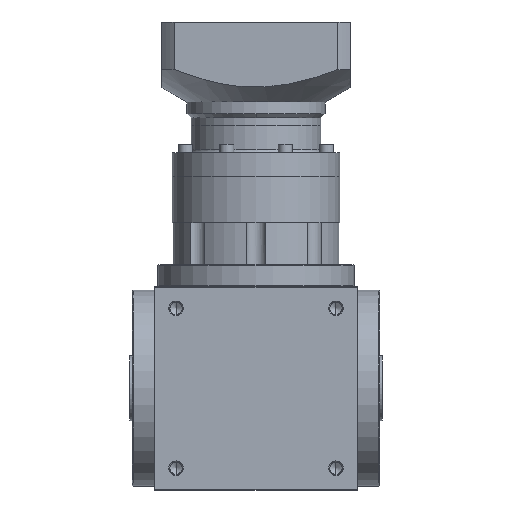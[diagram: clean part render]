
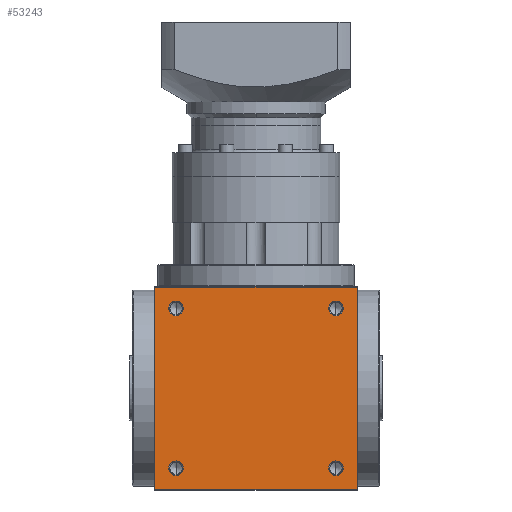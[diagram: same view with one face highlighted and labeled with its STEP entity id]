
A CAD part, front view. The second image highlights one B-rep face of the part: STEP entity #53243.
In plain terms, the highlighted planar face has unit normal (0, -1, 0).
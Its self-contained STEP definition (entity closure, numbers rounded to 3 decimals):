
#1031 = ORIENTED_EDGE ( 'NONE', *, *, #1348, .F. ) ;
#1348 = EDGE_CURVE ( 'NONE', #25370, #9355, #53398, .T. ) ;
#1490 = DIRECTION ( 'NONE',  ( 0., -1., 0. ) ) ;
#2600 = EDGE_CURVE ( 'NONE', #7045, #26670, #42354, .T. ) ;
#3504 = DIRECTION ( 'NONE',  ( 0., -1., 0. ) ) ;
#3703 = ORIENTED_EDGE ( 'NONE', *, *, #26780, .F. ) ;
#3855 = ORIENTED_EDGE ( 'NONE', *, *, #12682, .F. ) ;
#4017 = DIRECTION ( 'NONE',  ( 0., -1., 0. ) ) ;
#4320 = ORIENTED_EDGE ( 'NONE', *, *, #17621, .F. ) ;
#4363 = LINE ( 'NONE', #23595, #37792 ) ;
#4777 = EDGE_CURVE ( 'NONE', #14220, #34663, #33193, .T. ) ;
#7045 = VERTEX_POINT ( 'NONE', #36528 ) ;
#7113 = CIRCLE ( 'NONE', #42030, 5.025 ) ;
#7302 = DIRECTION ( 'NONE',  ( 0., -1., 0. ) ) ;
#8137 = FACE_BOUND ( 'NONE', #45569, .T. ) ;
#8199 = ORIENTED_EDGE ( 'NONE', *, *, #22756, .F. ) ;
#9355 = VERTEX_POINT ( 'NONE', #46163 ) ;
#9998 = DIRECTION ( 'NONE',  ( 0., 1., 0. ) ) ;
#10491 = DIRECTION ( 'NONE',  ( 1., 0., 0. ) ) ;
#10641 = CARTESIAN_POINT ( 'NONE',  ( -55., -70., 9.975 ) ) ;
#11396 = DIRECTION ( 'NONE',  ( 0., -1., 0. ) ) ;
#11636 = CARTESIAN_POINT ( 'NONE',  ( -55., -70., 125. ) ) ;
#11698 = AXIS2_PLACEMENT_3D ( 'NONE', #30046, #4017, #34458 ) ;
#12682 = EDGE_CURVE ( 'NONE', #41719, #25522, #29287, .T. ) ;
#14212 = ORIENTED_EDGE ( 'NONE', *, *, #4777, .F. ) ;
#14220 = VERTEX_POINT ( 'NONE', #29100 ) ;
#14352 = DIRECTION ( 'NONE',  ( 0., 0., -1. ) ) ;
#14362 = DIRECTION ( 'NONE',  ( 0., -1., 0. ) ) ;
#14427 = CARTESIAN_POINT ( 'NONE',  ( -55., -70., 15. ) ) ;
#15977 = DIRECTION ( 'NONE',  ( 0., 0., -1. ) ) ;
#17350 = CARTESIAN_POINT ( 'NONE',  ( 69.5, -70., 0.5 ) ) ;
#17621 = EDGE_CURVE ( 'NONE', #9355, #30589, #4363, .T. ) ;
#18664 = CARTESIAN_POINT ( 'NONE',  ( -69.5, -70., 140. ) ) ;
#18763 = EDGE_CURVE ( 'NONE', #28189, #25370, #27333, .T. ) ;
#19633 = FACE_BOUND ( 'NONE', #51965, .T. ) ;
#20828 = CIRCLE ( 'NONE', #11698, 5.025 ) ;
#20875 = CIRCLE ( 'NONE', #53103, 5.025 ) ;
#21083 = AXIS2_PLACEMENT_3D ( 'NONE', #40445, #9998, #40648 ) ;
#22667 = EDGE_LOOP ( 'NONE', ( #54516, #36931 ) ) ;
#22756 = EDGE_CURVE ( 'NONE', #25522, #41719, #46560, .T. ) ;
#22894 = CARTESIAN_POINT ( 'NONE',  ( 55., -70., 9.975 ) ) ;
#23595 = CARTESIAN_POINT ( 'NONE',  ( -70., -70., 139.5 ) ) ;
#25370 = VERTEX_POINT ( 'NONE', #43642 ) ;
#25522 = VERTEX_POINT ( 'NONE', #10641 ) ;
#26094 = CARTESIAN_POINT ( 'NONE',  ( 69.5, -70., 139.5 ) ) ;
#26407 = LINE ( 'NONE', #33803, #48450 ) ;
#26670 = VERTEX_POINT ( 'NONE', #30953 ) ;
#26780 = EDGE_CURVE ( 'NONE', #34663, #14220, #7113, .T. ) ;
#27308 = PLANE ( 'NONE',  #21083 ) ;
#27333 = LINE ( 'NONE', #54718, #47999 ) ;
#27474 = CARTESIAN_POINT ( 'NONE',  ( 55., -70., 15. ) ) ;
#28098 = AXIS2_PLACEMENT_3D ( 'NONE', #37607, #11396, #42068 ) ;
#28189 = VERTEX_POINT ( 'NONE', #17350 ) ;
#29100 = CARTESIAN_POINT ( 'NONE',  ( 55., -70., 20.025 ) ) ;
#29287 = CIRCLE ( 'NONE', #42156, 5.025 ) ;
#30043 = CARTESIAN_POINT ( 'NONE',  ( -55., -70., 125. ) ) ;
#30046 = CARTESIAN_POINT ( 'NONE',  ( 55., -70., 125. ) ) ;
#30589 = VERTEX_POINT ( 'NONE', #26094 ) ;
#30805 = EDGE_CURVE ( 'NONE', #37432, #43752, #54678, .T. ) ;
#30953 = CARTESIAN_POINT ( 'NONE',  ( -55., -70., 119.975 ) ) ;
#31240 = FACE_BOUND ( 'NONE', #37746, .T. ) ;
#31394 = AXIS2_PLACEMENT_3D ( 'NONE', #33368, #7302, #37819 ) ;
#31446 = CARTESIAN_POINT ( 'NONE',  ( 55., -70., 130.025 ) ) ;
#31898 = DIRECTION ( 'NONE',  ( 0., 0., -1. ) ) ;
#32816 = DIRECTION ( 'NONE',  ( -1., 0., 0. ) ) ;
#33193 = CIRCLE ( 'NONE', #39334, 5.025 ) ;
#33368 = CARTESIAN_POINT ( 'NONE',  ( 55., -70., 125. ) ) ;
#33803 = CARTESIAN_POINT ( 'NONE',  ( 69.5, -70., 140. ) ) ;
#34458 = DIRECTION ( 'NONE',  ( 0., 0., -1. ) ) ;
#34593 = ORIENTED_EDGE ( 'NONE', *, *, #54375, .F. ) ;
#34663 = VERTEX_POINT ( 'NONE', #22894 ) ;
#36043 = ORIENTED_EDGE ( 'NONE', *, *, #18763, .F. ) ;
#36528 = CARTESIAN_POINT ( 'NONE',  ( -55., -70., 130.025 ) ) ;
#36931 = ORIENTED_EDGE ( 'NONE', *, *, #55004, .F. ) ;
#37432 = VERTEX_POINT ( 'NONE', #44220 ) ;
#37607 = CARTESIAN_POINT ( 'NONE',  ( -55., -70., 15. ) ) ;
#37746 = EDGE_LOOP ( 'NONE', ( #34593, #56608 ) ) ;
#37792 = VECTOR ( 'NONE', #10491, 1000. ) ;
#37819 = DIRECTION ( 'NONE',  ( 0., 0., -1. ) ) ;
#38336 = ORIENTED_EDGE ( 'NONE', *, *, #45301, .F. ) ;
#38863 = EDGE_LOOP ( 'NONE', ( #36043, #38336, #4320, #1031 ) ) ;
#39334 = AXIS2_PLACEMENT_3D ( 'NONE', #41712, #41644, #41597 ) ;
#40445 = CARTESIAN_POINT ( 'NONE',  ( -70., -70., 140. ) ) ;
#40643 = DIRECTION ( 'NONE',  ( 0., 0., -1. ) ) ;
#40648 = DIRECTION ( 'NONE',  ( 0., 0., 1. ) ) ;
#41447 = AXIS2_PLACEMENT_3D ( 'NONE', #30043, #3504, #40643 ) ;
#41597 = DIRECTION ( 'NONE',  ( 0., 0., -1. ) ) ;
#41644 = DIRECTION ( 'NONE',  ( 0., -1., 0. ) ) ;
#41712 = CARTESIAN_POINT ( 'NONE',  ( 55., -70., 15. ) ) ;
#41719 = VERTEX_POINT ( 'NONE', #55266 ) ;
#41801 = VECTOR ( 'NONE', #44703, 1000. ) ;
#42030 = AXIS2_PLACEMENT_3D ( 'NONE', #27474, #1490, #31898 ) ;
#42068 = DIRECTION ( 'NONE',  ( 0., 0., -1. ) ) ;
#42156 = AXIS2_PLACEMENT_3D ( 'NONE', #14427, #14362, #14352 ) ;
#42316 = DIRECTION ( 'NONE',  ( 0., -1., 0. ) ) ;
#42354 = CIRCLE ( 'NONE', #41447, 5.025 ) ;
#42708 = DIRECTION ( 'NONE',  ( 0., 0., -1. ) ) ;
#43642 = CARTESIAN_POINT ( 'NONE',  ( -69.5, -70., 0.5 ) ) ;
#43752 = VERTEX_POINT ( 'NONE', #31446 ) ;
#44220 = CARTESIAN_POINT ( 'NONE',  ( 55., -70., 119.975 ) ) ;
#44703 = DIRECTION ( 'NONE',  ( 0., 0., 1. ) ) ;
#45301 = EDGE_CURVE ( 'NONE', #30589, #28189, #26407, .T. ) ;
#45569 = EDGE_LOOP ( 'NONE', ( #8199, #3855 ) ) ;
#46163 = CARTESIAN_POINT ( 'NONE',  ( -69.5, -70., 139.5 ) ) ;
#46560 = CIRCLE ( 'NONE', #28098, 5.025 ) ;
#47999 = VECTOR ( 'NONE', #32816, 1000. ) ;
#48450 = VECTOR ( 'NONE', #42708, 1000. ) ;
#51965 = EDGE_LOOP ( 'NONE', ( #3703, #14212 ) ) ;
#53103 = AXIS2_PLACEMENT_3D ( 'NONE', #11636, #42316, #15977 ) ;
#53236 = FACE_OUTER_BOUND ( 'NONE', #38863, .T. ) ;
#53243 = ADVANCED_FACE ( 'NONE', ( #54638, #31240, #19633, #8137, #53236 ), #27308, .F. ) ;
#53398 = LINE ( 'NONE', #18664, #41801 ) ;
#54375 = EDGE_CURVE ( 'NONE', #26670, #7045, #20875, .T. ) ;
#54516 = ORIENTED_EDGE ( 'NONE', *, *, #30805, .F. ) ;
#54638 = FACE_BOUND ( 'NONE', #22667, .T. ) ;
#54678 = CIRCLE ( 'NONE', #31394, 5.025 ) ;
#54718 = CARTESIAN_POINT ( 'NONE',  ( -70., -70., 0.5 ) ) ;
#55004 = EDGE_CURVE ( 'NONE', #43752, #37432, #20828, .T. ) ;
#55266 = CARTESIAN_POINT ( 'NONE',  ( -55., -70., 20.025 ) ) ;
#56608 = ORIENTED_EDGE ( 'NONE', *, *, #2600, .F. ) ;
